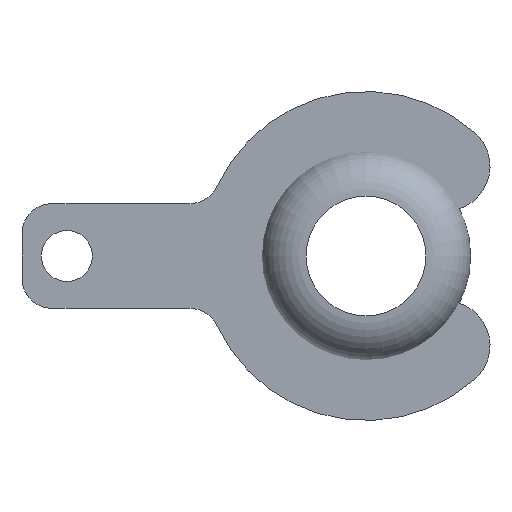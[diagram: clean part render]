
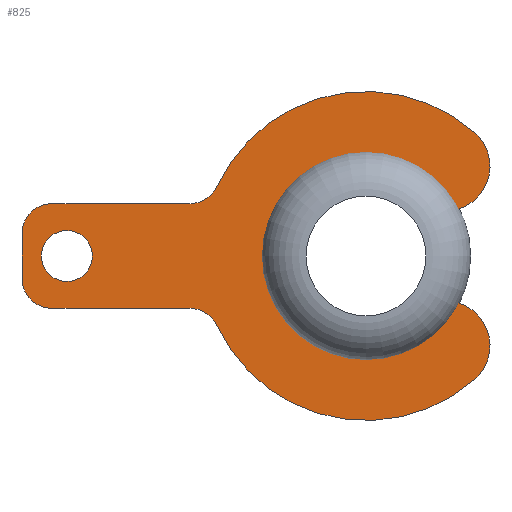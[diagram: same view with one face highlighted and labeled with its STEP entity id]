
A CAD part, front view. The second image highlights one B-rep face of the part: STEP entity #825.
In plain terms, the highlighted planar face has unit normal (0, -1, 0).
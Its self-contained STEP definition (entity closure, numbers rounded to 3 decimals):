
#4 = AXIS2_PLACEMENT_3D ( 'NONE', #665, #962, #292 ) ;
#6 = AXIS2_PLACEMENT_3D ( 'NONE', #471, #697, #475 ) ;
#8 = VERTEX_POINT ( 'NONE', #424 ) ;
#9 = CARTESIAN_POINT ( 'NONE',  ( -23., 0., 1.5 ) ) ;
#22 = CARTESIAN_POINT ( 'NONE',  ( 5.292, 0., -6. ) ) ;
#37 = AXIS2_PLACEMENT_3D ( 'NONE', #538, #136, #360 ) ;
#41 = ORIENTED_EDGE ( 'NONE', *, *, #794, .F. ) ;
#56 = DIRECTION ( 'NONE',  ( 0., 1., 0. ) ) ;
#71 = VECTOR ( 'NONE', #672, 1000. ) ;
#82 = CARTESIAN_POINT ( 'NONE',  ( -21., 0., -3.5 ) ) ;
#88 = ORIENTED_EDGE ( 'NONE', *, *, #898, .F. ) ;
#91 = VERTEX_POINT ( 'NONE', #342 ) ;
#95 = EDGE_LOOP ( 'NONE', ( #88, #266, #894, #156, #960, #778, #377, #41, #295, #180, #548, #773 ) ) ;
#101 = ORIENTED_EDGE ( 'NONE', *, *, #251, .T. ) ;
#102 = AXIS2_PLACEMENT_3D ( 'NONE', #814, #154, #473 ) ;
#116 = CIRCLE ( 'NONE', #469, 2. ) ;
#136 = DIRECTION ( 'NONE',  ( 0., 1., 0. ) ) ;
#137 = EDGE_CURVE ( 'NONE', #446, #617, #182, .T. ) ;
#154 = DIRECTION ( 'NONE',  ( 0., 1., 0. ) ) ;
#156 = ORIENTED_EDGE ( 'NONE', *, *, #224, .T. ) ;
#180 = ORIENTED_EDGE ( 'NONE', *, *, #657, .T. ) ;
#182 = CIRCLE ( 'NONE', #256, 3. ) ;
#192 = VERTEX_POINT ( 'NONE', #332 ) ;
#210 = DIRECTION ( 'NONE',  ( 0., 1., 0. ) ) ;
#216 = AXIS2_PLACEMENT_3D ( 'NONE', #463, #882, #442 ) ;
#224 = EDGE_CURVE ( 'NONE', #91, #765, #116, .T. ) ;
#229 = CARTESIAN_POINT ( 'NONE',  ( 7.276, 0., -8.25 ) ) ;
#231 = CIRCLE ( 'NONE', #216, 2. ) ;
#234 = VERTEX_POINT ( 'NONE', #263 ) ;
#238 = CARTESIAN_POINT ( 'NONE',  ( -23., 0., 0. ) ) ;
#247 = DIRECTION ( 'NONE',  ( 0., 0., 1. ) ) ;
#251 = EDGE_CURVE ( 'NONE', #234, #234, #363, .T. ) ;
#256 = AXIS2_PLACEMENT_3D ( 'NONE', #22, #913, #247 ) ;
#263 = CARTESIAN_POINT ( 'NONE',  ( -20., 0., 1.7 ) ) ;
#265 = DIRECTION ( 'NONE',  ( 0., 1., 0. ) ) ;
#266 = ORIENTED_EDGE ( 'NONE', *, *, #700, .T. ) ;
#291 = LINE ( 'NONE', #369, #590 ) ;
#292 = DIRECTION ( 'NONE',  ( 0., 0., 1. ) ) ;
#295 = ORIENTED_EDGE ( 'NONE', *, *, #941, .F. ) ;
#302 = CIRCLE ( 'NONE', #6, 3. ) ;
#304 = CARTESIAN_POINT ( 'NONE',  ( -23., 0., -1.5 ) ) ;
#312 = LINE ( 'NONE', #238, #71 ) ;
#314 = FACE_OUTER_BOUND ( 'NONE', #95, .T. ) ;
#317 = CIRCLE ( 'NONE', #433, 11. ) ;
#326 = DIRECTION ( 'NONE',  ( 0., 1., 0. ) ) ;
#329 = DIRECTION ( 'NONE',  ( 0., 0., 1. ) ) ;
#332 = CARTESIAN_POINT ( 'NONE',  ( -9.967, 0., 4.654 ) ) ;
#342 = CARTESIAN_POINT ( 'NONE',  ( -11.779, 0., -3.5 ) ) ;
#360 = DIRECTION ( 'NONE',  ( 0., 0., 1. ) ) ;
#363 = CIRCLE ( 'NONE', #450, 1.7 ) ;
#369 = CARTESIAN_POINT ( 'NONE',  ( 0., 0., -3.5 ) ) ;
#373 = CARTESIAN_POINT ( 'NONE',  ( -11.779, 0., 3.5 ) ) ;
#377 = ORIENTED_EDGE ( 'NONE', *, *, #383, .T. ) ;
#381 = EDGE_CURVE ( 'NONE', #8, #646, #661, .T. ) ;
#383 = EDGE_CURVE ( 'NONE', #446, #644, #497, .T. ) ;
#424 = CARTESIAN_POINT ( 'NONE',  ( -21., 0., 3.5 ) ) ;
#430 = CARTESIAN_POINT ( 'NONE',  ( 0., 0., 0. ) ) ;
#433 = AXIS2_PLACEMENT_3D ( 'NONE', #430, #56, #655 ) ;
#442 = DIRECTION ( 'NONE',  ( 0., 0., 1. ) ) ;
#446 = VERTEX_POINT ( 'NONE', #624 ) ;
#450 = AXIS2_PLACEMENT_3D ( 'NONE', #800, #210, #501 ) ;
#463 = CARTESIAN_POINT ( 'NONE',  ( -21., 0., -1.5 ) ) ;
#465 = DIRECTION ( 'NONE',  ( 0., 0., 1. ) ) ;
#469 = AXIS2_PLACEMENT_3D ( 'NONE', #660, #265, #496 ) ;
#471 = CARTESIAN_POINT ( 'NONE',  ( 5.292, 0., 6. ) ) ;
#473 = DIRECTION ( 'NONE',  ( 0., 0., 1. ) ) ;
#475 = DIRECTION ( 'NONE',  ( 0., 0., 1. ) ) ;
#496 = DIRECTION ( 'NONE',  ( 0., 0., 1. ) ) ;
#497 = CIRCLE ( 'NONE', #768, 5. ) ;
#501 = DIRECTION ( 'NONE',  ( 0., 0., 1. ) ) ;
#521 = CARTESIAN_POINT ( 'NONE',  ( 0., 0., 0. ) ) ;
#532 = EDGE_CURVE ( 'NONE', #617, #765, #317, .T. ) ;
#538 = CARTESIAN_POINT ( 'NONE',  ( -11.779, 0., 5.5 ) ) ;
#548 = ORIENTED_EDGE ( 'NONE', *, *, #632, .F. ) ;
#556 = VERTEX_POINT ( 'NONE', #933 ) ;
#590 = VECTOR ( 'NONE', #608, 1000. ) ;
#596 = DIRECTION ( 'NONE',  ( 1., 0., 0. ) ) ;
#608 = DIRECTION ( 'NONE',  ( 1., 0., 0. ) ) ;
#617 = VERTEX_POINT ( 'NONE', #229 ) ;
#622 = EDGE_CURVE ( 'NONE', #627, #91, #291, .T. ) ;
#624 = CARTESIAN_POINT ( 'NONE',  ( 3.307, 0., -3.75 ) ) ;
#627 = VERTEX_POINT ( 'NONE', #82 ) ;
#632 = EDGE_CURVE ( 'NONE', #8, #786, #745, .T. ) ;
#644 = VERTEX_POINT ( 'NONE', #879 ) ;
#646 = VERTEX_POINT ( 'NONE', #9 ) ;
#654 = VERTEX_POINT ( 'NONE', #304 ) ;
#655 = DIRECTION ( 'NONE',  ( 0., 0., 1. ) ) ;
#657 = EDGE_CURVE ( 'NONE', #192, #786, #911, .T. ) ;
#660 = CARTESIAN_POINT ( 'NONE',  ( -11.779, 0., -5.5 ) ) ;
#661 = CIRCLE ( 'NONE', #4, 2. ) ;
#665 = CARTESIAN_POINT ( 'NONE',  ( -21., 0., 1.5 ) ) ;
#672 = DIRECTION ( 'NONE',  ( 0., 0., 1. ) ) ;
#684 = CARTESIAN_POINT ( 'NONE',  ( 0., 0., 0. ) ) ;
#697 = DIRECTION ( 'NONE',  ( 0., 1., 0. ) ) ;
#700 = EDGE_CURVE ( 'NONE', #654, #627, #231, .T. ) ;
#735 = VECTOR ( 'NONE', #596, 1000. ) ;
#745 = LINE ( 'NONE', #966, #735 ) ;
#765 = VERTEX_POINT ( 'NONE', #803 ) ;
#768 = AXIS2_PLACEMENT_3D ( 'NONE', #521, #967, #465 ) ;
#769 = FACE_BOUND ( 'NONE', #846, .T. ) ;
#770 = CIRCLE ( 'NONE', #102, 11. ) ;
#773 = ORIENTED_EDGE ( 'NONE', *, *, #381, .T. ) ;
#778 = ORIENTED_EDGE ( 'NONE', *, *, #137, .F. ) ;
#783 = AXIS2_PLACEMENT_3D ( 'NONE', #684, #326, #329 ) ;
#786 = VERTEX_POINT ( 'NONE', #373 ) ;
#794 = EDGE_CURVE ( 'NONE', #556, #644, #302, .T. ) ;
#800 = CARTESIAN_POINT ( 'NONE',  ( -20., 0., 0. ) ) ;
#803 = CARTESIAN_POINT ( 'NONE',  ( -9.967, 0., -4.654 ) ) ;
#814 = CARTESIAN_POINT ( 'NONE',  ( 0., 0., 0. ) ) ;
#825 = ADVANCED_FACE ( 'NONE', ( #769, #314 ), #916, .F. ) ;
#846 = EDGE_LOOP ( 'NONE', ( #101 ) ) ;
#879 = CARTESIAN_POINT ( 'NONE',  ( 3.307, 0., 3.75 ) ) ;
#882 = DIRECTION ( 'NONE',  ( 0., -1., 0. ) ) ;
#894 = ORIENTED_EDGE ( 'NONE', *, *, #622, .T. ) ;
#898 = EDGE_CURVE ( 'NONE', #654, #646, #312, .T. ) ;
#911 = CIRCLE ( 'NONE', #37, 2. ) ;
#913 = DIRECTION ( 'NONE',  ( 0., 1., 0. ) ) ;
#916 = PLANE ( 'NONE',  #783 ) ;
#933 = CARTESIAN_POINT ( 'NONE',  ( 7.276, 0., 8.25 ) ) ;
#941 = EDGE_CURVE ( 'NONE', #192, #556, #770, .T. ) ;
#960 = ORIENTED_EDGE ( 'NONE', *, *, #532, .F. ) ;
#962 = DIRECTION ( 'NONE',  ( 0., -1., 0. ) ) ;
#966 = CARTESIAN_POINT ( 'NONE',  ( 0., 0., 3.5 ) ) ;
#967 = DIRECTION ( 'NONE',  ( 0., 1., 0. ) ) ;
